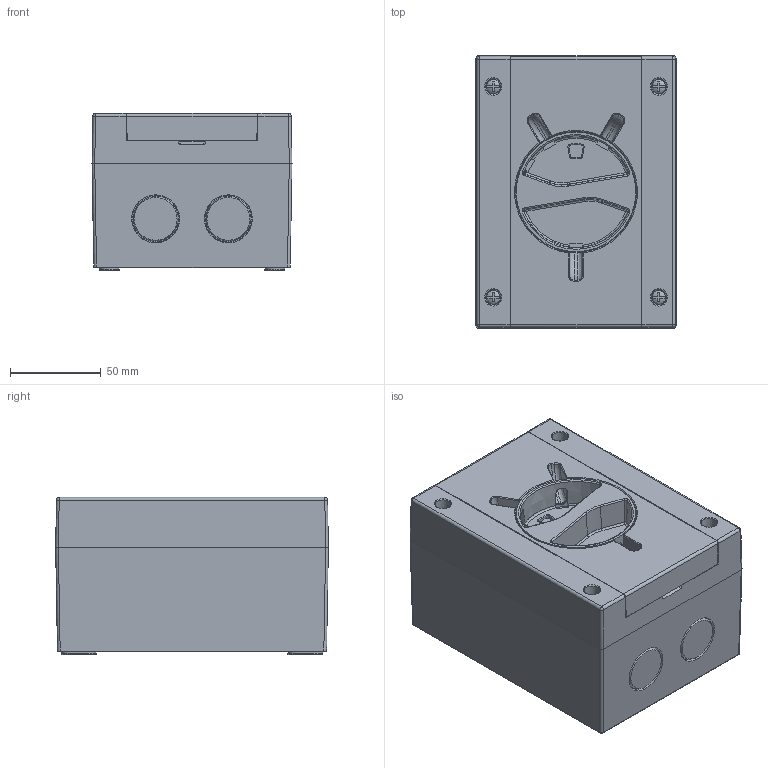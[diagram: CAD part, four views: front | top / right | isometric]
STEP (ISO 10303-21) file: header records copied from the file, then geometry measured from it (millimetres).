
FILE_DESCRIPTION(/* description */ (''),/* implementation_level */ '2;1');
FILE_NAME(/* name */ '4002668.stp',/* time_stamp */ '2019-10-31T08:27:10+01:00',/* author */ (''),/* organization */ (''),/* preprocessor_version */ 'ST-DEVELOPER v16.7',/* originating_system */ 'SIEMENS PLM Software NX 1888',/* authorisation */ '');
FILE_SCHEMA (('AUTOMOTIVE_DESIGN { 1 0 10303 214 3 1 1 1 }'));
Products named in the file (1): BSOM1408C3F78d9r
Bounding box: 110 x 150 x 86.5 mm (x, y, z)
Volume: 181786.6 mm3; surface area: 259229.3 mm2
Topology: 7 solids, 8 shells, 2141 faces, 5579 edges, 3519 vertices
Faces by surface type: plane 1048, cylinder 325, extrusion 235, bspline 225, cone 162, torus 92, sphere 54
Full cylindrical faces by diameter (mm): 2.8 x8, 4 x4, 4.2 x4, 7.6 x4, 25.4 x1
Entity records: 75629 total; most frequent: CARTESIAN_POINT 24460, ORIENTED_EDGE 10736, DIRECTION 8879, EDGE_CURVE 5368, VERTEX_POINT 3472, AXIS2_PLACEMENT_3D 3098, VECTOR 2683, LINE 2448
